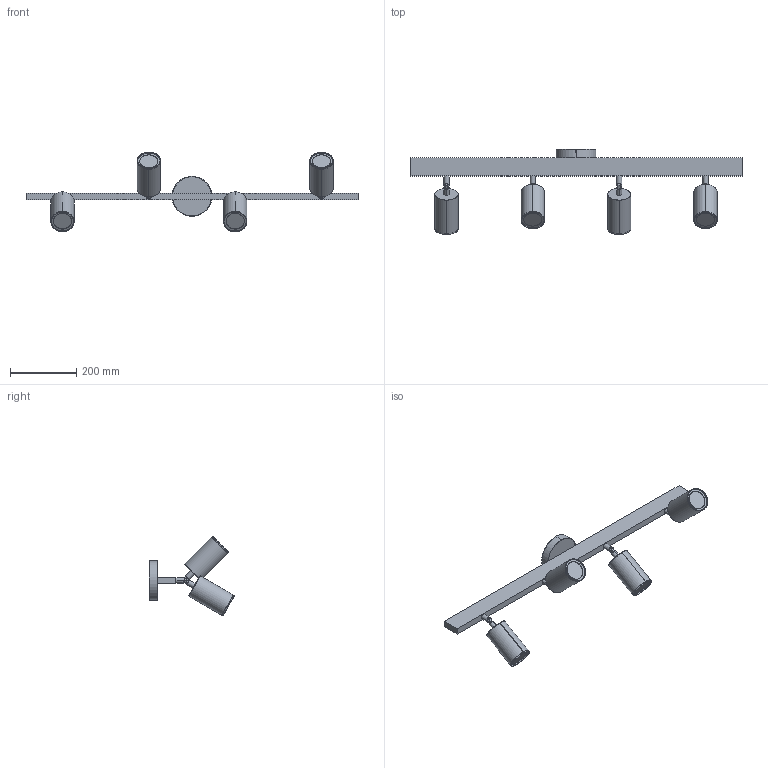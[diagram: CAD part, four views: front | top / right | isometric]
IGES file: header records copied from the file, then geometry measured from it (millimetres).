
Start section: SolidWorks IGES file using analytic representation for surfaces
Global section: file name: F:\燠隴矨\3D\2025-2\Natural Wood Beam Spotlight Light-4heads.IGS,15; native system: HSolidWorks 2022; preprocessor: SolidWorks 2022; author: MyPC; date: 250218.083947; units: millimetre
Bounding box: 1000 x 256.44 x 240.36 mm (x, y, z)
Surface area: 503721.1 mm2 (no closed solid volume)
Topology: 0 solids, 0 shells, 157 faces, 3464 edges, 3464 vertices
Faces by surface type: bspline 97, revolution 60
